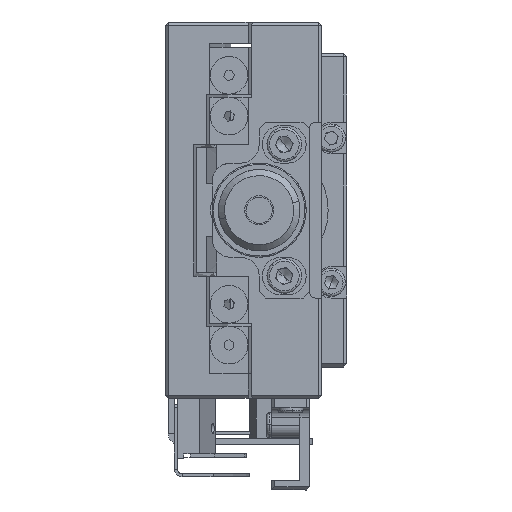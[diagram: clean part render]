
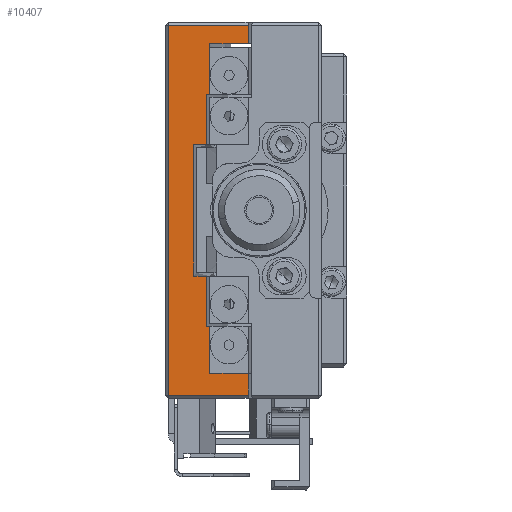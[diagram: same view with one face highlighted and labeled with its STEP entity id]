
A CAD part, left-side view. The second image highlights one B-rep face of the part: STEP entity #10407.
In plain terms, the highlighted planar face has unit normal (-1, 0, 0).
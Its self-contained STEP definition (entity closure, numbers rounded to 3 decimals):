
#437 = ORIENTED_EDGE ( 'NONE', *, *, #51736, .T. ) ;
#1152 = VECTOR ( 'NONE', #40897, 1000. ) ;
#1274 = ORIENTED_EDGE ( 'NONE', *, *, #12779, .T. ) ;
#1833 = VERTEX_POINT ( 'NONE', #22862 ) ;
#3535 = DIRECTION ( 'NONE',  ( 0., -1., 0. ) ) ;
#4203 = VECTOR ( 'NONE', #51816, 1000. ) ;
#4546 = CARTESIAN_POINT ( 'NONE',  ( 987.491, 1038.284, 999.227 ) ) ;
#5353 = DIRECTION ( 'NONE',  ( 0., -1., 0. ) ) ;
#5416 = ORIENTED_EDGE ( 'NONE', *, *, #46465, .T. ) ;
#5549 = CARTESIAN_POINT ( 'NONE',  ( 987.491, 1025.501, 999.227 ) ) ;
#5595 = EDGE_CURVE ( 'NONE', #49049, #41957, #22902, .T. ) ;
#6237 = VECTOR ( 'NONE', #24413, 1000. ) ;
#6514 = EDGE_CURVE ( 'NONE', #14478, #31768, #21809, .T. ) ;
#6541 = VERTEX_POINT ( 'NONE', #40926 ) ;
#6543 = VERTEX_POINT ( 'NONE', #4546 ) ;
#6762 = CARTESIAN_POINT ( 'NONE',  ( 987.491, 1031.647, 1002.727 ) ) ;
#7885 = VECTOR ( 'NONE', #34606, 1000. ) ;
#8001 = CARTESIAN_POINT ( 'NONE',  ( 987.491, 1032.159, 1010.227 ) ) ;
#8238 = CARTESIAN_POINT ( 'NONE',  ( 987.491, 1038.784, 1058.227 ) ) ;
#10407 = ADVANCED_FACE ( 'NONE', ( #47934 ), #36485, .F. ) ;
#10765 = DIRECTION ( 'NONE',  ( 0., 1., 0. ) ) ;
#11211 = VECTOR ( 'NONE', #28133, 1000. ) ;
#11907 = DIRECTION ( 'NONE',  ( 0., -1., 0. ) ) ;
#12032 = CARTESIAN_POINT ( 'NONE',  ( 987.491, 1034.212, 1039.227 ) ) ;
#12047 = EDGE_CURVE ( 'NONE', #14478, #48457, #22036, .T. ) ;
#12333 = ORIENTED_EDGE ( 'NONE', *, *, #51739, .T. ) ;
#12532 = EDGE_CURVE ( 'NONE', #17168, #49049, #35120, .T. ) ;
#12779 = EDGE_CURVE ( 'NONE', #50214, #1833, #22109, .T. ) ;
#13398 = VERTEX_POINT ( 'NONE', #17437 ) ;
#13676 = EDGE_CURVE ( 'NONE', #6543, #42097, #24291, .T. ) ;
#13836 = ORIENTED_EDGE ( 'NONE', *, *, #13676, .T. ) ;
#14478 = VERTEX_POINT ( 'NONE', #50893 ) ;
#14623 = LINE ( 'NONE', #8001, #11211 ) ;
#14688 = LINE ( 'NONE', #6762, #7885 ) ;
#15596 = LINE ( 'NONE', #48263, #52373 ) ;
#16639 = VERTEX_POINT ( 'NONE', #46501 ) ;
#17168 = VERTEX_POINT ( 'NONE', #30939 ) ;
#17437 = CARTESIAN_POINT ( 'NONE',  ( 987.491, 1031.647, 1010.227 ) ) ;
#17544 = CARTESIAN_POINT ( 'NONE',  ( 987.491, 1038.284, 1058.227 ) ) ;
#17692 = VERTEX_POINT ( 'NONE', #17544 ) ;
#18198 = CARTESIAN_POINT ( 'NONE',  ( 987.491, 1032.159, 1039.227 ) ) ;
#18433 = LINE ( 'NONE', #23182, #49403 ) ;
#19052 = ORIENTED_EDGE ( 'NONE', *, *, #12047, .T. ) ;
#19222 = CARTESIAN_POINT ( 'NONE',  ( 987.491, 1032.159, 1010.227 ) ) ;
#19522 = CARTESIAN_POINT ( 'NONE',  ( 987.491, 1013.784, 1055.227 ) ) ;
#19541 = DIRECTION ( 'NONE',  ( 0., 0., -1. ) ) ;
#19926 = CARTESIAN_POINT ( 'NONE',  ( 987.491, 1031.647, 1002.727 ) ) ;
#20469 = LINE ( 'NONE', #44631, #46039 ) ;
#21021 = EDGE_CURVE ( 'NONE', #1833, #17692, #28381, .T. ) ;
#21596 = DIRECTION ( 'NONE',  ( 0., 0., 1. ) ) ;
#21700 = CARTESIAN_POINT ( 'NONE',  ( 987.491, 1025.501, 998.727 ) ) ;
#21779 = DIRECTION ( 'NONE',  ( 0., 0., 1. ) ) ;
#21809 = LINE ( 'NONE', #45706, #38235 ) ;
#22036 = LINE ( 'NONE', #45676, #40597 ) ;
#22063 = ORIENTED_EDGE ( 'NONE', *, *, #12532, .F. ) ;
#22109 = LINE ( 'NONE', #22631, #52526 ) ;
#22631 = CARTESIAN_POINT ( 'NONE',  ( 987.491, 1025.501, 998.727 ) ) ;
#22862 = CARTESIAN_POINT ( 'NONE',  ( 987.491, 1025.501, 1058.227 ) ) ;
#22902 = LINE ( 'NONE', #39091, #4203 ) ;
#23182 = CARTESIAN_POINT ( 'NONE',  ( 987.491, 1038.284, 1058.727 ) ) ;
#23779 = CARTESIAN_POINT ( 'NONE',  ( 987.491, 1038.784, 1058.727 ) ) ;
#24107 = VECTOR ( 'NONE', #37863, 1000. ) ;
#24291 = LINE ( 'NONE', #40486, #35710 ) ;
#24316 = DIRECTION ( 'NONE',  ( 1., 0., 0. ) ) ;
#24413 = DIRECTION ( 'NONE',  ( 0., 1., 0. ) ) ;
#24543 = VECTOR ( 'NONE', #10765, 1000. ) ;
#26747 = ORIENTED_EDGE ( 'NONE', *, *, #38238, .F. ) ;
#28133 = DIRECTION ( 'NONE',  ( 0., 0., 1. ) ) ;
#28381 = LINE ( 'NONE', #8238, #6237 ) ;
#28949 = DIRECTION ( 'NONE',  ( 0., 0., -1. ) ) ;
#29263 = EDGE_LOOP ( 'NONE', ( #1274, #30666, #437, #13836, #42069, #39844, #12333, #26747, #42513, #51253, #19052, #46632, #44315, #22063, #43740, #5416 ) ) ;
#29307 = VECTOR ( 'NONE', #34910, 1000. ) ;
#30089 = EDGE_CURVE ( 'NONE', #44331, #16639, #49120, .T. ) ;
#30220 = CARTESIAN_POINT ( 'NONE',  ( 987.491, 1032.159, 1018.227 ) ) ;
#30478 = VERTEX_POINT ( 'NONE', #36291 ) ;
#30666 = ORIENTED_EDGE ( 'NONE', *, *, #21021, .T. ) ;
#30939 = CARTESIAN_POINT ( 'NONE',  ( 987.491, 1031.647, 1047.227 ) ) ;
#31445 = LINE ( 'NONE', #19522, #29307 ) ;
#31768 = VERTEX_POINT ( 'NONE', #30220 ) ;
#32312 = EDGE_CURVE ( 'NONE', #42097, #16639, #47157, .T. ) ;
#33494 = CARTESIAN_POINT ( 'NONE',  ( 987.491, 1031.647, 1002.727 ) ) ;
#34606 = DIRECTION ( 'NONE',  ( 0., 0., 1. ) ) ;
#34910 = DIRECTION ( 'NONE',  ( 0., -1., 0. ) ) ;
#35120 = LINE ( 'NONE', #52380, #24543 ) ;
#35710 = VECTOR ( 'NONE', #52418, 1000. ) ;
#35769 = EDGE_CURVE ( 'NONE', #48457, #41957, #15596, .T. ) ;
#36291 = CARTESIAN_POINT ( 'NONE',  ( 987.491, 1032.159, 1010.227 ) ) ;
#36485 = PLANE ( 'NONE',  #40319 ) ;
#37863 = DIRECTION ( 'NONE',  ( 0., 0., 1. ) ) ;
#38235 = VECTOR ( 'NONE', #5353, 1000. ) ;
#38238 = EDGE_CURVE ( 'NONE', #30478, #13398, #39914, .T. ) ;
#38598 = CARTESIAN_POINT ( 'NONE',  ( 987.491, 1025.501, 1055.227 ) ) ;
#39091 = CARTESIAN_POINT ( 'NONE',  ( 987.491, 1032.159, 1047.227 ) ) ;
#39295 = EDGE_CURVE ( 'NONE', #6541, #17168, #20469, .T. ) ;
#39844 = ORIENTED_EDGE ( 'NONE', *, *, #30089, .F. ) ;
#39914 = LINE ( 'NONE', #19222, #43975 ) ;
#40319 = AXIS2_PLACEMENT_3D ( 'NONE', #23779, #24316, #19541 ) ;
#40486 = CARTESIAN_POINT ( 'NONE',  ( 987.491, 1038.784, 999.227 ) ) ;
#40491 = CARTESIAN_POINT ( 'NONE',  ( 987.491, 1032.159, 1047.227 ) ) ;
#40597 = VECTOR ( 'NONE', #21779, 1000. ) ;
#40897 = DIRECTION ( 'NONE',  ( 0., -1., 0. ) ) ;
#40926 = CARTESIAN_POINT ( 'NONE',  ( 987.491, 1031.647, 1055.227 ) ) ;
#41957 = VERTEX_POINT ( 'NONE', #18198 ) ;
#42069 = ORIENTED_EDGE ( 'NONE', *, *, #32312, .T. ) ;
#42097 = VERTEX_POINT ( 'NONE', #5549 ) ;
#42330 = DIRECTION ( 'NONE',  ( 0., 0., -1. ) ) ;
#42513 = ORIENTED_EDGE ( 'NONE', *, *, #44532, .T. ) ;
#43740 = ORIENTED_EDGE ( 'NONE', *, *, #39295, .F. ) ;
#43975 = VECTOR ( 'NONE', #3535, 1000. ) ;
#44315 = ORIENTED_EDGE ( 'NONE', *, *, #5595, .F. ) ;
#44331 = VERTEX_POINT ( 'NONE', #33494 ) ;
#44532 = EDGE_CURVE ( 'NONE', #30478, #31768, #14623, .T. ) ;
#44631 = CARTESIAN_POINT ( 'NONE',  ( 987.491, 1031.647, 1054.727 ) ) ;
#45676 = CARTESIAN_POINT ( 'NONE',  ( 987.491, 1034.212, 1018.227 ) ) ;
#45706 = CARTESIAN_POINT ( 'NONE',  ( 987.491, 1034.212, 1018.227 ) ) ;
#46039 = VECTOR ( 'NONE', #28949, 1000. ) ;
#46465 = EDGE_CURVE ( 'NONE', #6541, #50214, #31445, .T. ) ;
#46501 = CARTESIAN_POINT ( 'NONE',  ( 987.491, 1025.501, 1002.727 ) ) ;
#46632 = ORIENTED_EDGE ( 'NONE', *, *, #35769, .T. ) ;
#47157 = LINE ( 'NONE', #21700, #24107 ) ;
#47934 = FACE_OUTER_BOUND ( 'NONE', #29263, .T. ) ;
#48263 = CARTESIAN_POINT ( 'NONE',  ( 987.491, 1034.212, 1039.227 ) ) ;
#48457 = VERTEX_POINT ( 'NONE', #12032 ) ;
#49049 = VERTEX_POINT ( 'NONE', #40491 ) ;
#49120 = LINE ( 'NONE', #19926, #1152 ) ;
#49403 = VECTOR ( 'NONE', #42330, 1000. ) ;
#50214 = VERTEX_POINT ( 'NONE', #38598 ) ;
#50893 = CARTESIAN_POINT ( 'NONE',  ( 987.491, 1034.212, 1018.227 ) ) ;
#51253 = ORIENTED_EDGE ( 'NONE', *, *, #6514, .F. ) ;
#51736 = EDGE_CURVE ( 'NONE', #17692, #6543, #18433, .T. ) ;
#51739 = EDGE_CURVE ( 'NONE', #44331, #13398, #14688, .T. ) ;
#51816 = DIRECTION ( 'NONE',  ( 0., 0., -1. ) ) ;
#52373 = VECTOR ( 'NONE', #11907, 1000. ) ;
#52380 = CARTESIAN_POINT ( 'NONE',  ( 987.491, 1013.784, 1047.227 ) ) ;
#52418 = DIRECTION ( 'NONE',  ( 0., -1., 0. ) ) ;
#52526 = VECTOR ( 'NONE', #21596, 1000. ) ;
